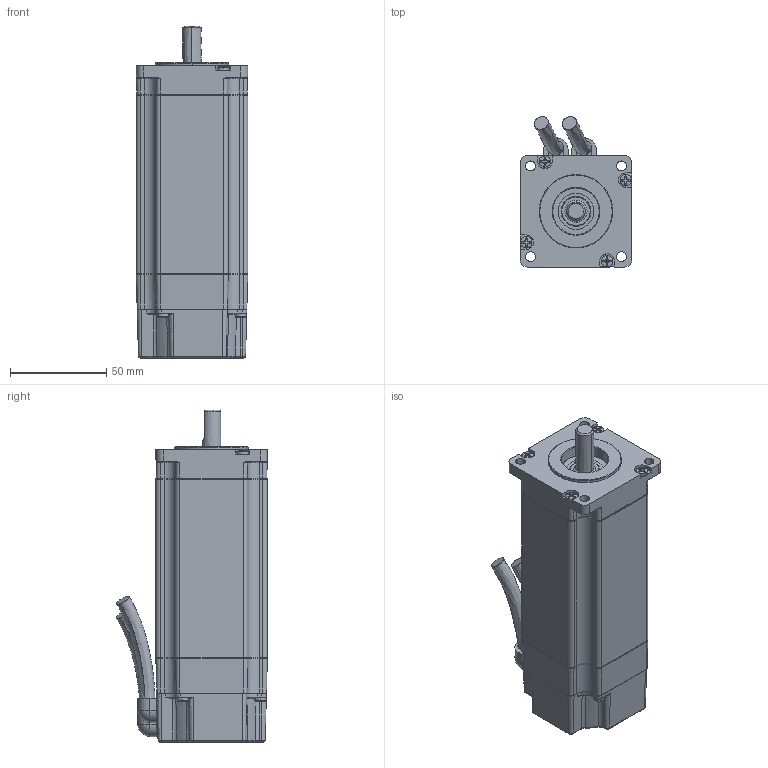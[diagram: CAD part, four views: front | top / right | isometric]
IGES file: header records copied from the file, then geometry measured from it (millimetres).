
Start section:  PTC IGES file: vlm23f.igs
Global section: file name: vlm23f.igs; native system: Pro/ENGINEER by Parametric Technology Corporation; preprocessor: 2006510; author: Ray.Dobbins; organization: Unknown; date: 20110726.092532; units: inch
Bounding box: 57.91 x 78.26 x 172.35 mm (x, y, z)
Surface area: 156107.2 mm2 (no closed solid volume)
Topology: 0 solids, 0 shells, 1723 faces, 9230 edges, 9220 vertices
Faces by surface type: revolution 1041, bspline 682
